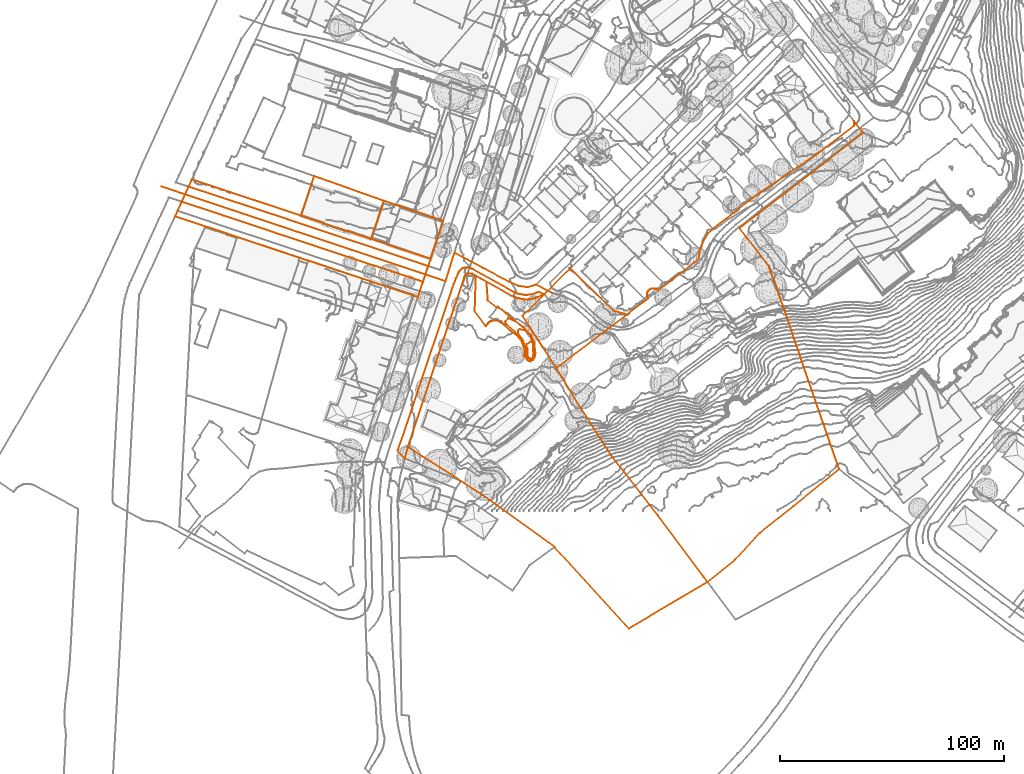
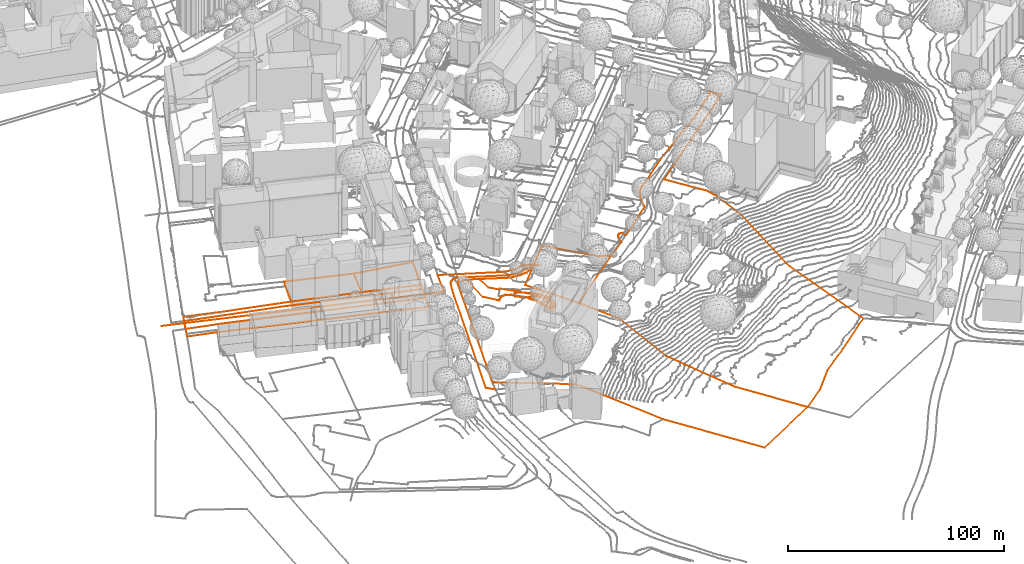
# Not in any storey, part 93 of 494: 16 proxies.
"""IFC2X3 model written with IfcOpenShell, lengths in metres."""

from ifc_helpers import new_model, entity, si_unit, frame, origin_with_axes, place, context, subcontext, project, element, save


model = new_model("IFC2X3")

# Units and contexts
model_context = context("Model", 3, precision=1e-05, world=origin_with_axes())
body_context = subcontext(model_context, "Body", "Model", "MODEL_VIEW")
ifc_project = project(units=[si_unit("AREAUNIT", "SQUARE_METRE"), si_unit("LENGTHUNIT", "METRE")], contexts=[model_context])

# Proxies
proxy_1_placement = place(None, frame((52.6617320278, 101.2267400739, 529.468), z_axis=(0.0, 0.0, 1.0), x_axis=(1.0, 0.0, 0.0)))
element("IfcBuildingElementProxy", 1, at=proxy_1_placement, Name="Road 51", ObjectType="NOTDEFINED", context=body_context, shape_type="GeometricCurveSet", body=[
    entity("IfcGeometricCurveSet", [entity("IfcPolyline", [entity("IfcCartesianPoint", [0.0, 0.0, 0.0]), entity("IfcCartesianPoint", [3.9649999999, 12.7749996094, 0.321])])]),
])
proxy_2_placement = place(None, frame((-74.5042679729, 143.6647387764, 528.908), z_axis=(0.0, 0.0, 1.0), x_axis=(1.0, 0.0, 0.0)))
element("IfcBuildingElementProxy", 2, at=proxy_2_placement, Name="Road 143", ObjectType="NOTDEFINED", context=body_context, shape_type="GeometricCurveSet", body=[
    entity("IfcGeometricCurveSet", [entity("IfcPolyline", [entity("IfcCartesianPoint", [0.0, 0.0, 0.0]), entity("IfcCartesianPoint", [36.4310000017, -12.1439996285, 0.169]), entity("IfcCartesianPoint", [85.506000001, -28.5029991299, 0.396]), entity("IfcCartesianPoint", [127.1660000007, -42.4379987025, 0.56])])]),
])
proxy_3_placement = place(None, frame((56.6267320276, 114.0017396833, 529.789), z_axis=(0.0, 0.0, 1.0), x_axis=(1.0, 0.0, 0.0)))
element("IfcBuildingElementProxy", 3, at=proxy_3_placement, Name="Road 144", ObjectType="NOTDEFINED", context=body_context, shape_type="GeometricCurveSet", body=[
    entity("IfcGeometricCurveSet", [entity("IfcPolyline", [entity("IfcCartesianPoint", [0.0, 0.0, 0.0]), entity("IfcCartesianPoint", [12.7819999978, -6.8169997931, 0.502]), entity("IfcCartesianPoint", [24.2289999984, -12.9209996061, 0.952]), entity("IfcCartesianPoint", [28.6349999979, -14.8309995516, 1.174]), entity("IfcCartesianPoint", [32.7459999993, -15.4179995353, 1.194]), entity("IfcCartesianPoint", [36.4169999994, -14.2429995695, 1.405])])]),
])
proxy_4_placement = place(None, frame((93.0437320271, 99.7587401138, 531.194), z_axis=(0.0, 0.0, 1.0), x_axis=(1.0, 0.0, 0.0)))
element("IfcBuildingElementProxy", 4, at=proxy_4_placement, Name="Road 152", ObjectType="NOTDEFINED", context=body_context, shape_type="GeometricCurveSet", body=[
    entity("IfcGeometricCurveSet", [entity("IfcPolyline", [entity("IfcCartesianPoint", [0.0, 0.0, 0.0]), entity("IfcCartesianPoint", [7.1950000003, -3.6719998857, -0.081])])]),
])
proxy_5_placement = place(None, frame((65.6917320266, 87.8627160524, 530.1721185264), z_axis=(0.0, 0.0, 1.0), x_axis=(1.0, 0.0, 0.0)))
element("IfcBuildingElementProxy", 5, at=proxy_5_placement, Name="Roads Outline 5", ObjectType="NOTDEFINED", context=body_context, shape_type="GeometricCurveSet", body=[
    entity("IfcGeometricCurveSet", [entity("IfcPolyline", [entity("IfcCartesianPoint", [0.0, 0.0, 0.0]), entity("IfcCartesianPoint", [0.5130000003, 15.7679999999, 0.0338455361]), entity("IfcCartesianPoint", [5.2779999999, 13.1140000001, 0.261026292]), entity("IfcCartesianPoint", [5.855, 4.8470000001, 0.2600616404]), entity("IfcCartesianPoint", [9.736, 1.571, -0.2818026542]), entity("IfcCartesianPoint", [10.1660000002, 2.145, -0.1248423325]), entity("IfcCartesianPoint", [22.4339999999, -8.068, -1.6127279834]), entity("IfcCartesianPoint", [23.0970000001, -8.6580000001, -1.4725893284]), entity("IfcCartesianPoint", [23.7150000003, -9.2930000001, -1.5986600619]), entity("IfcCartesianPoint", [24.2860000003, -9.9720000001, -1.4724593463]), entity("IfcCartesianPoint", [24.807, -10.6899999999, -1.5019773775]), entity("IfcCartesianPoint", [25.3030000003, -11.4950000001, -0.9444887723]), entity("IfcCartesianPoint", [25.736, -12.335, -1.0435754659]), entity("IfcCartesianPoint", [26.102, -13.2069999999, -1.403093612]), entity("IfcCartesianPoint", [26.3999999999, -14.1040000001, -0.6911966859]), entity("IfcCartesianPoint", [26.6329999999, -15.0320000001, -0.4477806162]), entity("IfcCartesianPoint", [26.7910000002, -15.9750000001, -0.4591269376]), entity("IfcCartesianPoint", [26.8740000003, -16.9280000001, -0.4591866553]), entity("IfcCartesianPoint", [26.8810000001, -17.885, -0.8025907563]), entity("IfcCartesianPoint", [26.8289999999, -18.673, -0.780968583]), entity("IfcCartesianPoint", [26.7260000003, -19.456, -0.5564165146]), entity("IfcCartesianPoint", [26.571, -20.2309999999, -0.5767110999]), entity("IfcCartesianPoint", [26.3670000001, -20.993, -0.6204464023]), entity("IfcCartesianPoint", [26.1120000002, -21.7409999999, -0.5713972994]), entity("IfcCartesianPoint", [25.9270000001, -21.665, -0.580164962]), entity("IfcCartesianPoint", [22.1189999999, -20.0889999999, -0.9610308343]), entity("IfcCartesianPoint", [21.9330000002, -20.0120000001, -0.9261870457]), entity("IfcCartesianPoint", [22.0950000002, -19.423, -1.3556489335]), entity("IfcCartesianPoint", [22.213, -18.8230000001, -1.5857013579]), entity("IfcCartesianPoint", [22.2860000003, -18.216, -1.5670811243]), entity("IfcCartesianPoint", [22.3140000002, -17.605, -1.7700222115]), entity("IfcCartesianPoint", [22.2940000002, -16.9680000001, -1.9510494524]), entity("IfcCartesianPoint", [22.2250000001, -16.335, -2.0730131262]), entity("IfcCartesianPoint", [22.1070000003, -15.71, -2.1577706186]), entity("IfcCartesianPoint", [21.9399999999, -15.095, -2.1484826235]), entity("IfcCartesianPoint", [21.6830000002, -14.4240000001, -2.0581615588]), entity("IfcCartesianPoint", [21.3640000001, -13.781, -1.9871576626]), entity("IfcCartesianPoint", [20.986, -13.1710000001, -1.652196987]), entity("IfcCartesianPoint", [20.551, -12.5989999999, -1.3839870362]), entity("IfcCartesianPoint", [20.0640000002, -12.071, -1.144698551]), entity("IfcCartesianPoint", [19.5290000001, -11.5919999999, -0.4269015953]), entity("IfcCartesianPoint", [11.5980000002, -5.0109999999, 0.0112830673]), entity("IfcCartesianPoint", [11.1430000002, -4.693, 0.0817293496]), entity("IfcCartesianPoint", [10.6499999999, -4.439, 0.0984159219]), entity("IfcCartesianPoint", [10.1269999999, -4.2520000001, 0.0967733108]), entity("IfcCartesianPoint", [9.585, -4.1359999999, 0.1305304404]), entity("IfcCartesianPoint", [9.031, -4.0930000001, 0.1258897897]), entity("IfcCartesianPoint", [8.477, -4.1240000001, 0.1183343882]), entity("IfcCartesianPoint", [7.932, -4.2280000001, 0.1759402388]), entity("IfcCartesianPoint", [7.4190000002, -4.398, 0.2134765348]), entity("IfcCartesianPoint", [6.932, -4.632, 0.2151942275]), entity("IfcCartesianPoint", [6.48, -4.9269999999, 0.2046788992]), entity("IfcCartesianPoint", [6.0690000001, -5.2779999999, 0.1727443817]), entity("IfcCartesianPoint", [5.7069999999, -5.679, 0.1719773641]), entity("IfcCartesianPoint", [5.3999999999, -6.1240000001, 0.1903218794]), entity("IfcCartesianPoint", [5.1520000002, -6.6040000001, 0.1618089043]), entity("IfcCartesianPoint", [4.969, -6.524, 0.1608507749]), entity("IfcCartesianPoint", [0.0, 0.0, 0.0])])]),
])
proxy_6_placement = place(None, frame((31.3317320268, 25.6087160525, 528.5172780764), z_axis=(0.0, 0.0, 1.0), x_axis=(1.0, 0.0, 0.0)))
element("IfcBuildingElementProxy", 6, at=proxy_6_placement, Name="Roads Outline 11", ObjectType="NOTDEFINED", context=body_context, shape_type="GeometricCurveSet", body=[
    entity("IfcGeometricCurveSet", [entity("IfcPolyline", [entity("IfcCartesianPoint", [0.0, 0.0, 0.0]), entity("IfcCartesianPoint", [23.551, 70.165, 1.1981964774]), entity("IfcCartesianPoint", [24.2880000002, 72.3199999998, 1.2486813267]), entity("IfcCartesianPoint", [25.0669999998, 74.46, 1.2780287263]), entity("IfcCartesianPoint", [25.9529999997, 76.7449999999, 1.3423059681]), entity("IfcCartesianPoint", [26.8900000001, 79.01, 1.3856055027]), entity("IfcCartesianPoint", [27.1260000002, 79.5459999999, 1.382832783]), entity("IfcCartesianPoint", [27.4339999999, 80.0459999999, 1.4010026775]), entity("IfcCartesianPoint", [27.8059999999, 80.4989999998, 1.4265829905]), entity("IfcCartesianPoint", [28.236, 80.8969999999, 1.4369361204]), entity("IfcCartesianPoint", [28.716, 81.233, 1.451369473]), entity("IfcCartesianPoint", [29.2379999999, 81.5009999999, 1.4669401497]), entity("IfcCartesianPoint", [29.7909999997, 81.6949999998, 1.4810749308]), entity("IfcCartesianPoint", [30.2579999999, 81.797, 1.4937965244]), entity("IfcCartesianPoint", [30.7340000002, 81.845, 1.5085522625]), entity("IfcCartesianPoint", [31.2119999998, 81.841, 1.5186594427]), entity("IfcCartesianPoint", [31.6869999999, 81.784, 1.5275002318]), entity("IfcCartesianPoint", [32.1519999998, 81.6739999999, 1.5290784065]), entity("IfcCartesianPoint", [32.6179999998, 81.507, 1.5296960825]), entity("IfcCartesianPoint", [33.0619999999, 81.2879999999, 1.5427963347]), entity("IfcCartesianPoint", [33.477, 81.0179999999, 1.5646540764]), entity("IfcCartesianPoint", [50.699, 71.4539999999, 2.4177189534]), entity("IfcCartesianPoint", [51.4709999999, 71.014, 2.4647378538]), entity("IfcCartesianPoint", [52.2710000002, 70.6299999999, 2.499819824]), entity("IfcCartesianPoint", [53.0970000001, 70.3029999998, 2.5440938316]), entity("IfcCartesianPoint", [53.943, 70.034, 2.5790860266]), entity("IfcCartesianPoint", [54.8059999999, 69.825, 2.6166156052]), entity("IfcCartesianPoint", [55.716, 69.6739999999, 2.6498947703]), entity("IfcCartesianPoint", [56.6340000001, 69.5889999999, 2.6801726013]), entity("IfcCartesianPoint", [57.5559999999, 69.5699999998, 2.6975659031]), entity("IfcCartesianPoint", [58.477, 69.6189999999, 2.7155324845]), entity("IfcCartesianPoint", [59.392, 69.7339999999, 2.7243952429]), entity("IfcCartesianPoint", [60.2889999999, 69.9439999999, 2.749862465]), entity("IfcCartesianPoint", [61.1699999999, 70.213, 2.7743457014]), entity("IfcCartesianPoint", [62.031, 70.5379999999, 2.7730193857]), entity("IfcCartesianPoint", [62.8700000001, 70.919, 2.7851582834]), entity("IfcCartesianPoint", [65.2889999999, 69.8589999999, 2.8338857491]), entity("IfcCartesianPoint", [62.5890000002, 68.615, 2.6965142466]), entity("IfcCartesianPoint", [61.7999999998, 68.3, 2.6796508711]), entity("IfcCartesianPoint", [60.9920000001, 68.0379999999, 2.6849713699]), entity("IfcCartesianPoint", [60.1680000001, 67.8289999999, 2.7335690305]), entity("IfcCartesianPoint", [59.3330000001, 67.675, 2.7725246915]), entity("IfcCartesianPoint", [58.4890000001, 67.575, 2.7869623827]), entity("IfcCartesianPoint", [57.4869999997, 67.5289999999, 2.7695924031]), entity("IfcCartesianPoint", [56.4840000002, 67.5600000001, 2.7362431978]), entity("IfcCartesianPoint", [55.486, 67.669, 2.6776107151]), entity("IfcCartesianPoint", [54.5, 67.8540000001, 2.6307313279]), entity("IfcCartesianPoint", [53.6579999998, 68.0419999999, 2.5827809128]), entity("IfcCartesianPoint", [52.8309999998, 68.2849999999, 2.5178027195]), entity("IfcCartesianPoint", [52.0219999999, 68.5819999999, 2.4976904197]), entity("IfcCartesianPoint", [51.2340000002, 68.932, 2.4338487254]), entity("IfcCartesianPoint", [50.4709999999, 69.334, 2.4014606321]), entity("IfcCartesianPoint", [39.6379999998, 75.368, 1.9158667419]), entity("IfcCartesianPoint", [34.8730000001, 78.0219999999, 1.6886859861]), entity("IfcCartesianPoint", [33.4539999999, 78.8129999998, 1.600644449]), entity("IfcCartesianPoint", [33.1090000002, 78.987, 1.5933528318]), entity("IfcCartesianPoint", [32.7420000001, 79.105, 1.5855703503]), entity("IfcCartesianPoint", [32.3599999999, 79.166, 1.5659167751]), entity("IfcCartesianPoint", [31.9739999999, 79.1669999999, 1.5457688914]), entity("IfcCartesianPoint", [31.5920000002, 79.1089999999, 1.5252182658]), entity("IfcCartesianPoint", [31.2239999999, 78.9919999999, 1.5056748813]), entity("IfcCartesianPoint", [30.8760000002, 78.831, 1.4899875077]), entity("IfcCartesianPoint", [30.557, 78.6189999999, 1.4802681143]), entity("IfcCartesianPoint", [30.2739999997, 78.3599999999, 1.4710618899]), entity("IfcCartesianPoint", [30.034, 78.061, 1.4620793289]), entity("IfcCartesianPoint", [29.8429999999, 77.7290000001, 1.452834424]), entity("IfcCartesianPoint", [29.7039999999, 77.372, 1.4445892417]), entity("IfcCartesianPoint", [4.5079999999, 1.7009999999, 0.4025342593]), entity("IfcCartesianPoint", [3.1839999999, -3.432, -0.0044481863]), entity("IfcCartesianPoint", [0.0, 0.0, 0.0])])]),
])
proxy_7_placement = place(None, frame((-65.0242679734, 136.7457160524, 528.1490524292), z_axis=(0.0, 0.0, 1.0), x_axis=(1.0, 0.0, 0.0)))
element("IfcBuildingElementProxy", 7, at=proxy_7_placement, Name="Roads Outline 33", ObjectType="NOTDEFINED", context=body_context, shape_type="GeometricCurveSet", body=[
    entity("IfcGeometricCurveSet", [entity("IfcPolyline", [entity("IfcCartesianPoint", [0.0, 0.0, 0.0]), entity("IfcCartesianPoint", [3.0550000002, 6.7170000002, -0.6811027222]), entity("IfcCartesianPoint", [5.824, 5.8030000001, -0.6290595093]), entity("IfcCartesianPoint", [47.5920000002, -7.983, 0.8992000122]), entity("IfcCartesianPoint", [107.662, -27.9709999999, 1.4211484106]), entity("IfcCartesianPoint", [109.9590000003, -28.7349999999, 1.4572135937]), entity("IfcCartesianPoint", [107.6180000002, -35.7789999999, 1.486005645]), entity("IfcCartesianPoint", [105.392, -35.0389999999, 1.5244149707]), entity("IfcCartesianPoint", [18.443, -6.132, 0.6849398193]), entity("IfcCartesianPoint", [0.0, 0.0, 0.0])])]),
])
proxy_8_placement = place(None, frame((-68.0042679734, 130.1907160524, 528.88296875), z_axis=(0.0, 0.0, 1.0), x_axis=(1.0, 0.0, 0.0)))
element("IfcBuildingElementProxy", 8, at=proxy_8_placement, Name="Cadastre 83", ObjectType="NOTDEFINED", context=body_context, shape_type="GeometricCurveSet", body=[
    entity("IfcGeometricCurveSet", [entity("IfcPolyline", [entity("IfcCartesianPoint", [0.0, 0.0, 0.0]), entity("IfcCartesianPoint", [7.4909999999, 16.4739999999, -1.4595177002]), entity("IfcCartesianPoint", [24.622, 10.7760000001, -1.2013676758]), entity("IfcCartesianPoint", [35.253, 7.2379999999, -0.8039088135]), entity("IfcCartesianPoint", [56.145, 0.291, -0.0336930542]), entity("IfcCartesianPoint", [87.4569999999, -10.125, 0.6054903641]), entity("IfcCartesianPoint", [114.0090000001, -18.9620000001, 0.7872893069]), entity("IfcCartesianPoint", [108.3370000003, -36.0249999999, 0.6884443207]), entity("IfcCartesianPoint", [13.571, -4.5079999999, 0.4201008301]), entity("IfcCartesianPoint", [0.0, 0.0, 0.0])])]),
])
proxy_9_placement = place(None, frame((-11.8592679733, 130.4817160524, 528.8492756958), z_axis=(0.0, 0.0, 1.0), x_axis=(1.0, 0.0, 0.0)))
element("IfcBuildingElementProxy", 9, at=proxy_9_placement, Name="Cadastre 86", ObjectType="NOTDEFINED", context=body_context, shape_type="GeometricCurveSet", body=[
    entity("IfcGeometricCurveSet", [entity("IfcPolyline", [entity("IfcCartesianPoint", [0.0, 0.0, 0.0]), entity("IfcCartesianPoint", [4.6430000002, 13.898, -1.4252169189]), entity("IfcCartesianPoint", [5.9010000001, 17.6629999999, -1.6247078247]), entity("IfcCartesianPoint", [36.963, 6.6870000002, -1.223122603]), entity("IfcCartesianPoint", [35.7390000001, 2.9839999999, -0.8274569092]), entity("IfcCartesianPoint", [31.3119999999, -10.416, 0.6391834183]), entity("IfcCartesianPoint", [0.0, 0.0, 0.0])])]),
])
proxy_10_placement = place(None, frame((19.4527320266, 120.0657160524, 529.4884591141), z_axis=(0.0, 0.0, 1.0), x_axis=(1.0, 0.0, 0.0)))
element("IfcBuildingElementProxy", 10, at=proxy_10_placement, Name="Cadastre 88", ObjectType="NOTDEFINED", context=body_context, shape_type="GeometricCurveSet", body=[
    entity("IfcGeometricCurveSet", [entity("IfcPolyline", [entity("IfcCartesianPoint", [0.0, 0.0, 0.0]), entity("IfcCartesianPoint", [4.4270000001, 13.3999999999, -1.4666403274]), entity("IfcCartesianPoint", [5.6510000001, 17.1030000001, -1.8623060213]), entity("IfcCartesianPoint", [10.9020000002, 15.2439999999, -1.3219887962]), entity("IfcCartesianPoint", [32.2430000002, 8.2069999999, 0.7901763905]), entity("IfcCartesianPoint", [26.5520000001, -8.8370000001, 0.1817989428]), entity("IfcCartesianPoint", [0.0, 0.0, 0.0])])]),
])
proxy_11_placement = place(None, frame((35.8397320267, 27.3097160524, 528.9198123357), z_axis=(0.0, 0.0, 1.0), x_axis=(1.0, 0.0, 0.0)))
element("IfcBuildingElementProxy", 11, at=proxy_11_placement, Name="Cadastre 90", ObjectType="NOTDEFINED", context=body_context, shape_type="GeometricCurveSet", body=[
    entity("IfcGeometricCurveSet", [entity("IfcPolyline", [entity("IfcCartesianPoint", [0.0, 0.0, 0.0]), entity("IfcCartesianPoint", [25.196, 75.6710000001, 1.0420549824]), entity("IfcCartesianPoint", [25.335, 76.0280000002, 1.0503001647]), entity("IfcCartesianPoint", [25.5260000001, 76.3600000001, 1.0595450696]), entity("IfcCartesianPoint", [25.7659999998, 76.659, 1.0685276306]), entity("IfcCartesianPoint", [26.0490000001, 76.9180000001, 1.077733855]), entity("IfcCartesianPoint", [26.3680000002, 77.1300000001, 1.0874532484]), entity("IfcCartesianPoint", [26.716, 77.291, 1.1031406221]), entity("IfcCartesianPoint", [27.0840000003, 77.4080000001, 1.1226840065]), entity("IfcCartesianPoint", [27.466, 77.466, 1.1432346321]), entity("IfcCartesianPoint", [27.852, 77.4650000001, 1.1633825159]), entity("IfcCartesianPoint", [28.2340000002, 77.4040000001, 1.1830360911]), entity("IfcCartesianPoint", [28.6010000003, 77.2860000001, 1.1908185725]), entity("IfcCartesianPoint", [28.946, 77.112, 1.1981101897]), entity("IfcCartesianPoint", [45.963, 67.6330000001, 1.9989263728]), entity("IfcCartesianPoint", [46.7260000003, 67.2310000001, 2.0313144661]), entity("IfcCartesianPoint", [47.514, 66.8810000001, 2.0951561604]), entity("IfcCartesianPoint", [48.3229999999, 66.584, 2.1152684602]), entity("IfcCartesianPoint", [49.1499999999, 66.341, 2.1802466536]), entity("IfcCartesianPoint", [49.9920000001, 66.1530000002, 2.2281970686]), entity("IfcCartesianPoint", [50.9780000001, 65.9680000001, 2.2750764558]), entity("IfcCartesianPoint", [51.9760000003, 65.8590000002, 2.3337089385]), entity("IfcCartesianPoint", [52.9789999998, 65.828, 2.3670581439]), entity("IfcCartesianPoint", [53.9810000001, 65.8740000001, 2.3844281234]), entity("IfcCartesianPoint", [54.8250000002, 65.9740000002, 2.3699904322]), entity("IfcCartesianPoint", [55.6600000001, 66.128, 2.3310347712]), entity("IfcCartesianPoint", [56.4840000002, 66.3370000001, 2.2824371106]), entity("IfcCartesianPoint", [57.2919999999, 66.5990000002, 2.2771166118]), entity("IfcCartesianPoint", [58.0810000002, 66.9140000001, 2.2939799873]), entity("IfcCartesianPoint", [60.9909999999, 68.2550000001, 2.440349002]), entity("IfcCartesianPoint", [51.2009999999, 58.5420000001, 1.6569705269]), entity("IfcCartesianPoint", [66.327, 35.2709999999, 0.3445971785]), entity("IfcCartesianPoint", [77.3340000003, 17.2390000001, -1.2014758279]), entity("IfcCartesianPoint", [90.6699999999, -3.5259999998, -14.573134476]), entity("IfcCartesianPoint", [111.6660000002, -30.578, -22.9106450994]), entity("IfcCartesianPoint", [131.9610000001, -57.7339999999, -24.0988105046]), entity("IfcCartesianPoint", [133.7310000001, -60.1639999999, -24.0894003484]), entity("IfcCartesianPoint", [98.6839999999, -80.9039999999, -22.2397467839]), entity("IfcCartesianPoint", [65.4199999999, -44.5600000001, -16.6383814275]), entity("IfcCartesianPoint", [33.4760000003, -21.443, -0.0451216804]), entity("IfcCartesianPoint", [23.6779999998, -15.1639999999, 0.378507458]), entity("IfcCartesianPoint", [0.0, 0.0, 0.0])])]),
])
proxy_12_placement = place(None, frame((102.1667320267, 62.5807160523, 529.2644095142), z_axis=(0.0, 0.0, 1.0), x_axis=(1.0, 0.0, 0.0)))
element("IfcBuildingElementProxy", 12, at=proxy_12_placement, Name="Cadastre 93", ObjectType="NOTDEFINED", context=body_context, shape_type="GeometricCurveSet", body=[
    entity("IfcGeometricCurveSet", [entity("IfcPolyline", [entity("IfcCartesianPoint", [0.0, 0.0, 0.0]), entity("IfcCartesianPoint", [31.4279999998, 23.848, 1.5576566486]), entity("IfcCartesianPoint", [39.9670000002, 30.3200000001, 1.4281709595]), entity("IfcCartesianPoint", [40.8969999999, 31.03, 1.3230256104]), entity("IfcCartesianPoint", [40.6740000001, 31.4540000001, 1.4578496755]), entity("IfcCartesianPoint", [40.523, 31.9080000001, 1.8262137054]), entity("IfcCartesianPoint", [40.449, 32.3810000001, 2.27642148]), entity("IfcCartesianPoint", [40.4530000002, 32.8600000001, 2.6594337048]), entity("IfcCartesianPoint", [40.5359999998, 33.3320000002, 2.8537439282]), entity("IfcCartesianPoint", [40.6949999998, 33.7830000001, 2.8698311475]), entity("IfcCartesianPoint", [40.926, 34.2030000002, 2.8816245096]), entity("IfcCartesianPoint", [41.2229999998, 34.5790000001, 2.8896372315]), entity("IfcCartesianPoint", [41.577, 34.9010000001, 2.895335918]), entity("IfcCartesianPoint", [41.9759999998, 35.1590000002, 2.8988881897]), entity("IfcCartesianPoint", [42.4109999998, 35.348, 2.8978973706]), entity("IfcCartesianPoint", [42.8709999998, 35.4640000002, 2.8918779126]), entity("IfcCartesianPoint", [43.344, 35.5040000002, 2.8047201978]), entity("IfcCartesianPoint", [43.818, 35.466, 2.6692175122]), entity("IfcCartesianPoint", [44.2779999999, 35.3520000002, 2.3379484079]), entity("IfcCartesianPoint", [44.7140000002, 35.165, 1.7410820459]), entity("IfcCartesianPoint", [45.1140000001, 34.9090000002, 1.3685524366]), entity("IfcCartesianPoint", [45.4670000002, 34.591, 1.4858642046]), entity("IfcCartesianPoint", [48.6770000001, 37.0920000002, 1.557079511]), entity("IfcCartesianPoint", [55.176, 42.1440000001, 1.9046598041]), entity("IfcCartesianPoint", [57.3859999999, 43.8650000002, 2.703374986]), entity("IfcCartesianPoint", [63.426, 48.5560000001, 2.7774298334]), entity("IfcCartesianPoint", [64.0260000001, 52.7270000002, 3.4549306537]), entity("IfcCartesianPoint", [65.466, 56.4680000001, 3.5007206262]), entity("IfcCartesianPoint", [67.6660000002, 60.1390000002, 3.3792201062]), entity("IfcCartesianPoint", [69.9759999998, 62.2790000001, 3.7064632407]), entity("IfcCartesianPoint", [78.7250000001, 69.0220000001, 3.9945995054]), entity("IfcCartesianPoint", [87.355, 75.6740000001, 4.4274226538]), entity("IfcCartesianPoint", [90.2250000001, 77.885, 4.6369138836]), entity("IfcCartesianPoint", [95.9739999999, 81.7660000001, 4.7475556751]), entity("IfcCartesianPoint", [105.8029999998, 88.3990000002, 4.966612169]), entity("IfcCartesianPoint", [116.503, 95.611, 5.2884707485]), entity("IfcCartesianPoint", [132.6869999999, 108.0860000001, 6.267161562]), entity("IfcCartesianPoint", [132.841, 110.0560000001, 6.488893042]), entity("IfcCartesianPoint", [136.8909999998, 104.8560000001, 6.1319225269]), entity("IfcCartesianPoint", [81.6940000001, 62.4510000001, 3.3544682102]), entity("IfcCartesianPoint", [94.591, 45.6600000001, 2.7719029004]), entity("IfcCartesianPoint", [96.3110000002, 40.9100000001, 2.4708180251]), entity("IfcCartesianPoint", [101.7390000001, 25.9710000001, -1.2275680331]), entity("IfcCartesianPoint", [111.3560000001, -2.6189999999, -16.6664958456]), entity("IfcCartesianPoint", [126.1310000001, -45.1679999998, -25.4623999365]), entity("IfcCartesianPoint", [105.7220000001, -61.6039999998, -25.5795038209]), entity("IfcCartesianPoint", [90.5430000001, -73.7279999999, -24.9655506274]), entity("IfcCartesianPoint", [79.4330000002, -85.8019999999, -24.8659850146]), entity("IfcCartesianPoint", [67.4040000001, -95.4349999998, -24.4339975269]), entity("IfcCartesianPoint", [65.6340000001, -93.0049999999, -24.4434076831]), entity("IfcCartesianPoint", [45.3390000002, -65.8489999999, -23.2552422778]), entity("IfcCartesianPoint", [24.3429999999, -38.7969999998, -14.9177316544]), entity("IfcCartesianPoint", [11.0070000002, -18.0319999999, -1.5460730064]), entity("IfcCartesianPoint", [0.0, 0.0, 0.0])])]),
])
proxy_13_placement = place(None, frame((87.0407320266, 85.8517160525, 530.5767828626), z_axis=(0.0, 0.0, 1.0), x_axis=(1.0, 0.0, 0.0)))
element("IfcBuildingElementProxy", 13, at=proxy_13_placement, Name="Cadastre 105", ObjectType="NOTDEFINED", context=body_context, shape_type="GeometricCurveSet", body=[
    entity("IfcGeometricCurveSet", [entity("IfcPolyline", [entity("IfcCartesianPoint", [0.0, 0.0, 0.0]), entity("IfcCartesianPoint", [9.79, 9.713, 0.783378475]), entity("IfcCartesianPoint", [21.449, 21.3659999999, 1.6842178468]), entity("IfcCartesianPoint", [40.5250000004, 2.2459999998, 0.6919427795]), entity("IfcCartesianPoint", [46.554, 0.5769999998, 0.2452833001]), entity("IfcCartesianPoint", [15.1260000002, -23.2710000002, -1.3123733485]), entity("IfcCartesianPoint", [0.0, 0.0, 0.0])])]),
])
proxy_14_placement = place(None, frame((88.8969702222, 72.1707160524, 527.0), z_axis=(0.0, 0.0, 1.0), x_axis=(1.0, 0.0, 0.0)))
element("IfcBuildingElementProxy", 14, at=proxy_14_placement, Name="Contour Line 527.0 m", ObjectType="NOTDEFINED", context=body_context, shape_type="GeometricCurveSet", body=[
    entity("IfcGeometricCurveSet", [entity("IfcPolyline", [entity("IfcCartesianPoint", [2.7807618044, -5.0567718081, 0.0]), entity("IfcCartesianPoint", [2.9955333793, -3.0, 0.0]), entity("IfcCartesianPoint", [2.7807618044, 1.1629881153, 0.0]), entity("IfcCartesianPoint", [1.7807618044, 2.0611664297, 0.0]), entity("IfcCartesianPoint", [0.0277365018, 1.0, 0.0]), entity("IfcCartesianPoint", [0.0, 0.0, 0.0]), entity("IfcCartesianPoint", [0.3924715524, -1.0, 0.0]), entity("IfcCartesianPoint", [0.3584754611, -4.0, 0.0]), entity("IfcCartesianPoint", [1.7807618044, -5.5221163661, 0.0]), entity("IfcCartesianPoint", [2.7807618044, -5.0567718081, 0.0])])]),
])
proxy_15_placement = place(None, frame((85.0187261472, 79.1707160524, 528.0), z_axis=(0.0, 0.0, 1.0), x_axis=(1.0, 0.0, 0.0)))
element("IfcBuildingElementProxy", 15, at=proxy_15_placement, Name="Contour Line 528.0 m", ObjectType="NOTDEFINED", context=body_context, shape_type="GeometricCurveSet", body=[
    entity("IfcGeometricCurveSet", [entity("IfcPolyline", [entity("IfcCartesianPoint", [5.6590058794, -13.1690418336, 0.0]), entity("IfcCartesianPoint", [7.0799014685, -12.0, 0.0]), entity("IfcCartesianPoint", [7.2790311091, -10.0, 0.0]), entity("IfcCartesianPoint", [6.9764429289, -5.0, 0.0]), entity("IfcCartesianPoint", [6.0617639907, -4.0, 0.0]), entity("IfcCartesianPoint", [5.6590058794, -2.6024170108, 0.0]), entity("IfcCartesianPoint", [4.6590058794, -1.3849798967, 0.0]), entity("IfcCartesianPoint", [2.6590058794, 0.2603864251, 0.0]), entity("IfcCartesianPoint", [0.6590058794, 0.6793388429, 0.0]), entity("IfcCartesianPoint", [0.0, 0.0, 0.0]), entity("IfcCartesianPoint", [0.014679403, -1.0, 0.0]), entity("IfcCartesianPoint", [2.1593227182, -4.0, 0.0]), entity("IfcCartesianPoint", [3.6811827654, -9.0, 0.0]), entity("IfcCartesianPoint", [3.7493470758, -11.0, 0.0]), entity("IfcCartesianPoint", [4.6590058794, -12.4441842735, 0.0]), entity("IfcCartesianPoint", [5.6590058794, -13.1690418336, 0.0])])]),
])
proxy_16_placement = place(None, frame((79.2661080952, 83.1707160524, 529.0), z_axis=(0.0, 0.0, 1.0), x_axis=(1.0, 0.0, 0.0)))
element("IfcBuildingElementProxy", 16, at=proxy_16_placement, Name="Contour Line 529.0 m", ObjectType="NOTDEFINED", context=body_context, shape_type="GeometricCurveSet", body=[
    entity("IfcGeometricCurveSet", [entity("IfcPolyline", [entity("IfcCartesianPoint", [11.4116239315, -17.7070335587, 0.0]), entity("IfcCartesianPoint", [13.19734617, -16.0, 0.0]), entity("IfcCartesianPoint", [13.4999787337, -14.0, 0.0]), entity("IfcCartesianPoint", [13.1810016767, -13.0, 0.0]), entity("IfcCartesianPoint", [13.1164353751, -9.0, 0.0]), entity("IfcCartesianPoint", [12.3187223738, -8.0, 0.0]), entity("IfcCartesianPoint", [11.6651606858, -6.0, 0.0]), entity("IfcCartesianPoint", [8.4116239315, -2.606060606, 0.0]), entity("IfcCartesianPoint", [4.4116239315, 0.2492962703, 0.0]), entity("IfcCartesianPoint", [1.4116239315, 1.5848101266, 0.0]), entity("IfcCartesianPoint", [0.0, 0.0, 0.0]), entity("IfcCartesianPoint", [0.3957941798, -1.0, 0.0]), entity("IfcCartesianPoint", [4.4116239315, -4.5106097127, 0.0]), entity("IfcCartesianPoint", [6.7962550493, -7.0, 0.0]), entity("IfcCartesianPoint", [8.5977562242, -12.0, 0.0]), entity("IfcCartesianPoint", [8.7630816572, -15.0, 0.0]), entity("IfcCartesianPoint", [9.9446599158, -17.0, 0.0]), entity("IfcCartesianPoint", [10.4116239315, -17.4447404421, 0.0]), entity("IfcCartesianPoint", [11.4116239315, -17.7070335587, 0.0])])]),
])

save(model, "model.ifc")
